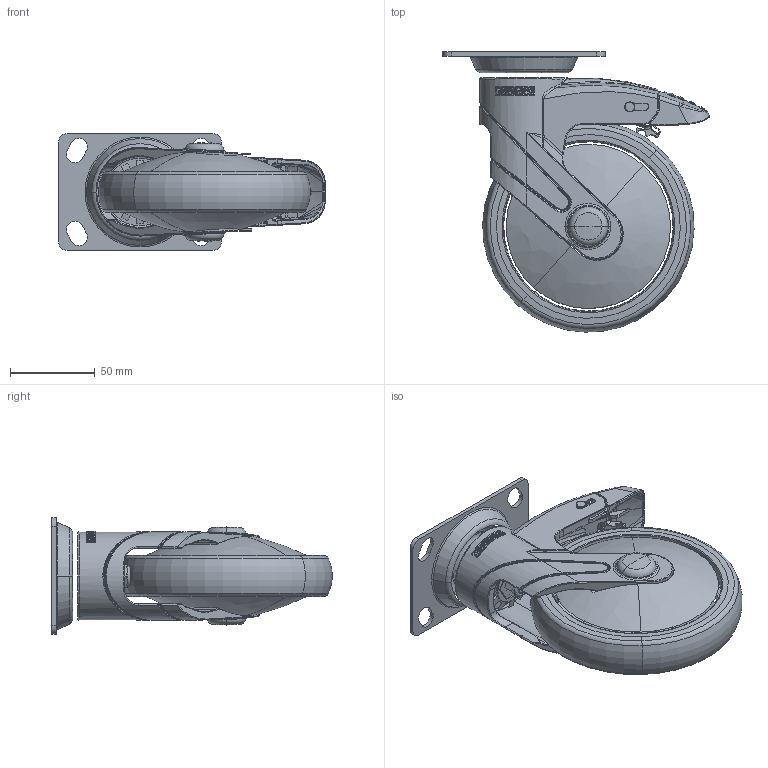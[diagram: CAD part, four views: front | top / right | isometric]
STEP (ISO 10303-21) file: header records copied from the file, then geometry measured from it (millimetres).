
FILE_DESCRIPTION((''),'2;1');
FILE_NAME('PRT0011','2026-03-31T16:27:58',('Administrator'),(''),'CREO PARAMETRIC BY PTC INC, 2022124','CREO PARAMETRIC BY PTC INC, 2022124','');
FILE_SCHEMA(('AUTOMOTIVE_DESIGN { 1 0 10303 214 1 1 1 1 }'));
Length unit declared in the file: millimetre
Products named in the file (1): PRT0011
Bounding box: 157.39 x 165.38 x 69 mm (x, y, z)
Surface area: 76025.8 mm2 (no closed solid volume)
Topology: 0 solids, 45 shells, 501 faces, 2146 edges, 1628 vertices
Faces by surface type: bspline 197, cylinder 128, plane 91, torus 56, cone 25, sphere 4
Entity records: 44079 total; most frequent: CARTESIAN_POINT 25591, ORIENTED_EDGE 2951, DIRECTION 2507, EDGE_CURVE 2130, VERTEX_POINT 1628, AXIS2_PLACEMENT_3D 992, B_SPLINE_CURVE_WITH_KNOTS 932, CIRCLE 678
